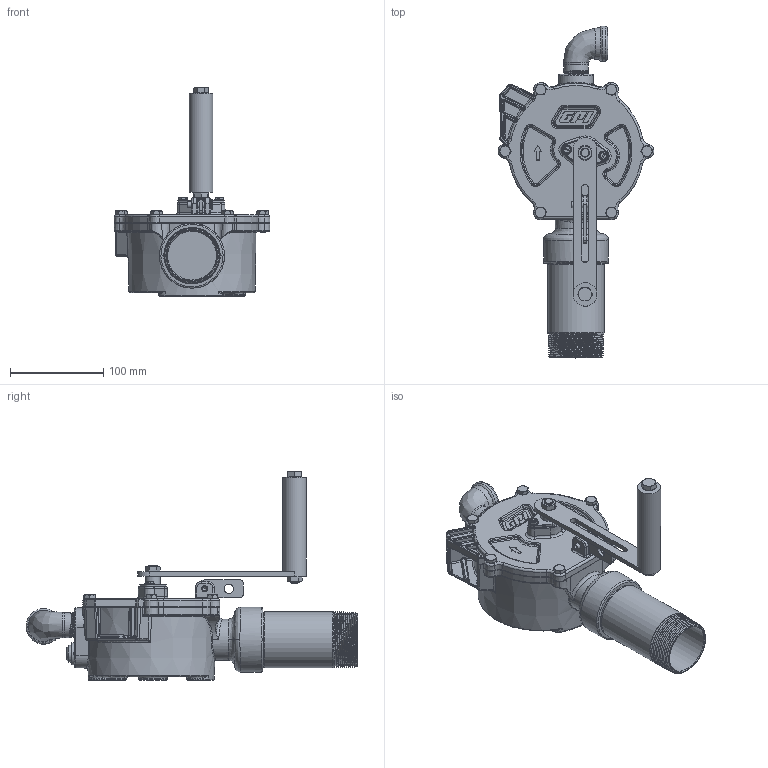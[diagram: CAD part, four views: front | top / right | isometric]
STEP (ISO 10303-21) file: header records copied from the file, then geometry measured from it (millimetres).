
FILE_DESCRIPTION(/* description */ (''),/* implementation_level */ '2;1');
FILE_NAME(/* name */ 'RP-10_WEB_Simplify.stp',/* time_stamp */ '2024-08-01T15:05:54-05:00',/* author */ ('gdanhar'),/* organization */ (''),/* preprocessor_version */ 'ST-DEVELOPER v20',/* originating_system */ 'Autodesk Inventor 2024',/* authorisation */ '');
FILE_SCHEMA (('AUTOMOTIVE_DESIGN { 1 0 10303 214 3 1 1 }'));
Length unit declared in the file: inch
Products named in the file (1): RP-10_WEB_Simplify
Bounding box: 167.64 x 356.88 x 224.69 mm (x, y, z)
Volume: 1666817.8 mm3; surface area: 202286 mm2
Topology: 2 solids, 17 shells, 1404 faces, 3360 edges, 2013 vertices
Faces by surface type: plane 436, cylinder 266, bspline 264, cone 257, torus 171, sphere 10
Full cylindrical faces by diameter (mm): 2.845 x1, 3.048 x1, 3.962 x2, 4.724 x1, 4.826 x2, 5.207 x2, 6.299 x1, 6.35 x10, 6.629 x2, 6.746 x1, 7.925 x1, 8.433 x1, 9.525 x3, 9.906 x1, 10.033 x1, 10.135 x2, 10.16 x1, 11.115 x1, 11.125 x6, 14.224 x1, 14.3 x1, 15.85 x1, 15.964 x1, 16.002 x1, 16.637 x1, 16.764 x1, 18.034 x1, 18.847 x1, 20.345 x1, 23.876 x1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
Entity records: 64551 total; most frequent: CARTESIAN_POINT 31994, ORIENTED_EDGE 6666, DIRECTION 6245, EDGE_CURVE 3333, AXIS2_PLACEMENT_3D 2503, VERTEX_POINT 2013, EDGE_LOOP 1498, FACE_OUTER_BOUND 1404
